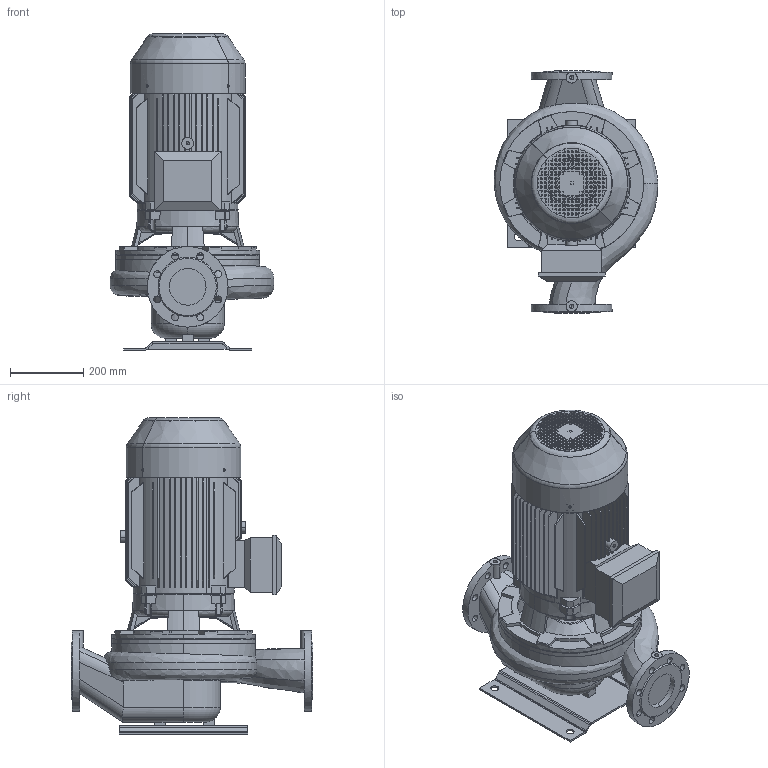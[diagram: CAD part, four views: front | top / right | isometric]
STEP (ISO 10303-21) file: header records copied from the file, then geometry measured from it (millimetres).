
FILE_DESCRIPTION(('STEP AP214'),'1');
FILE_NAME('export.stp','2018-05-29T07:46:41',(' '),(' '),'Spatial InterOp 3D',' ',' ');
FILE_SCHEMA(('AUTOMOTIVE_DESIGN { 1 0 10303 214 1 1 1 1 }'));
Length unit declared in the file: millimetre
Products named in the file (12): W_L100S21850KP166; V_TLL100SAL1202; V_PPL100S; P100496; P100495; P100342; V_MKP166-H1-F31; R200574; R201257; R200641; R200587; R200366
Assembly tree (12 placements, depth 3):
  W_L100S21850KP166
    V_TLL100SAL1202
    V_PPL100S
    P100496
      P100495  x2
      P100342
    V_MKP166-H1-F31
      R200574
      R201257
      R200641
      R200587
      R200366
Bounding box: 446.6 x 660 x 863.5 mm (x, y, z)
Volume: 32989477.5 mm3; surface area: 3817808.5 mm2
Topology: 10 solids, 10 shells, 1830 faces, 5322 edges, 3515 vertices
Faces by surface type: plane 1241, cylinder 292, cone 180, torus 73, bspline 44
Full cylindrical faces by diameter (mm): 8 x3, 45 x1, 60 x1, 80 x1
Entity records: 99585 total; most frequent: CARTESIAN_POINT 20488, ORIENTED_EDGE 10572, DIRECTION 9252, EDGE_CURVE 5286, STYLED_ITEM 5007, PRESENTATION_STYLE_ASSIGNMENT 5007, COLOUR_RGB 5007, VERTEX_POINT 3506
